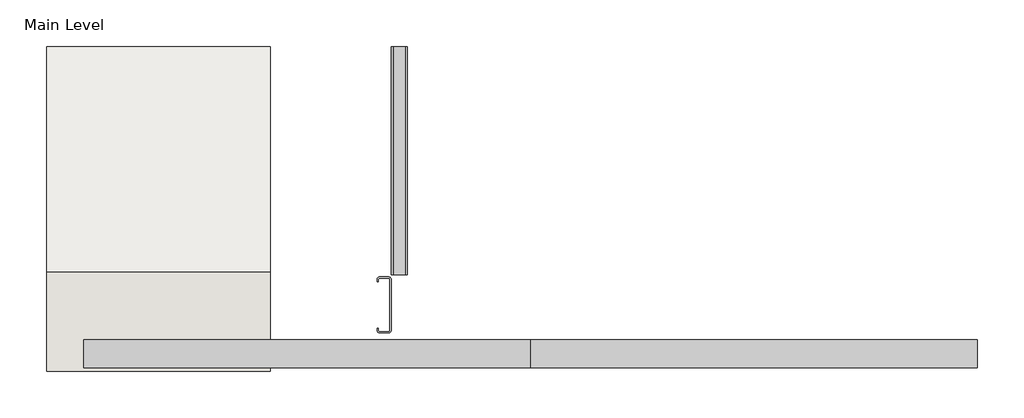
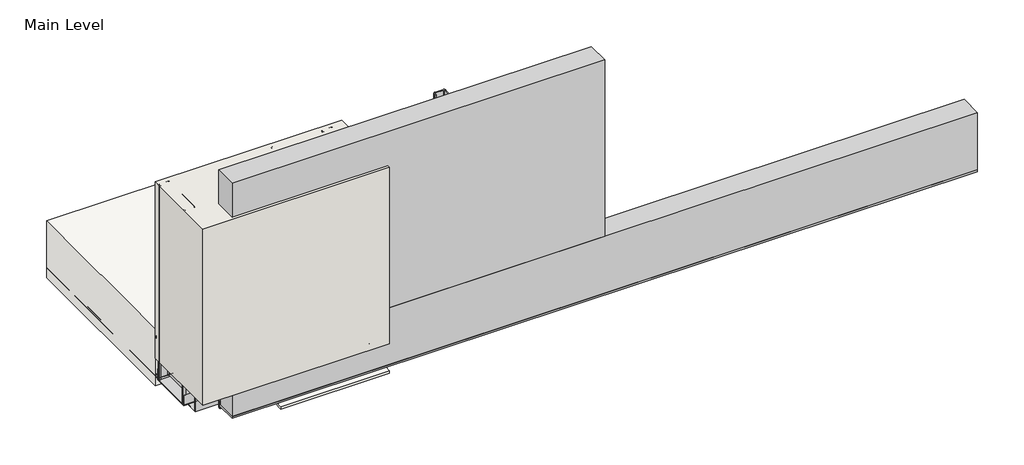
# One storey, incomplete: 10 proxies, 2 coverings, 1 wall.
"""IFC4 building model written with IfcOpenShell, lengths in millimetres."""

from ifc_helpers import new_model, si_unit, frame, origin, origin_with_axes, place, context, project, spatial, polyline, outline, extrude, transform, mapped, element, save
from components import generic_models_9a115d84, generic_models_2e656d56, generic_models_47e8b319, proxy_81afb05a, proxy_e5e434bb, proxy_63d6b373, soffit_box_soffit_box_c2691520, wood_blocking_c9818c35, wood_blocking_63bdfc83

model = new_model("IFC4")

# Units and contexts
model_context = context("Model", 3, world=origin())
ifc_project = project(units=[si_unit("LENGTHUNIT", "METRE", prefix="MILLI")], contexts=[model_context])

# Site, building, storey
site = spatial("IfcSite", under=ifc_project)
building = spatial("IfcBuilding", under=site)
storey = spatial("IfcBuildingStorey", under=building, Name="Main Level", Elevation=0.0)

# Proxies
placement = place(None, origin())
generic_models_shape = generic_models_9a115d84(model_context)
element("IfcBuildingElementProxy", 1, Name="CRAi Generic Model Metal Stud Array : CRAi Generic Model Metal Stud Array", ObjectType="CRAi Generic Model Metal Stud Array : CRAi Generic Model Metal Stud Array", at=placement, inside=storey, context=model_context, shape_type="MappedRepresentation", body=[
    mapped(generic_models_shape, transform((26692.3726773, 719.7066297, -60.325), x_axis=(-1.0, 0.0, 0.0), y_axis=(0.0, -1.0, 0.0), z_axis=(0.0, 0.0, 1.0))),
])
element("IfcBuildingElementProxy", 2, Name="CRAi Generic Model Metal Stud Array : CRAi Generic Model Metal Stud Array", ObjectType="CRAi Generic Model Metal Stud Array : CRAi Generic Model Metal Stud Array", at=placement, inside=storey, context=model_context, shape_type="MappedRepresentation", body=[
    mapped(generic_models_shape, transform((27225.7726773, 719.7066297, -60.325), x_axis=(-1.0, 0.0, 0.0), y_axis=(0.0, -1.0, 0.0), z_axis=(0.0, 0.0, 1.0))),
])
generic_models_2_shape = generic_models_2e656d56(model_context)
generic_models_3_shape = generic_models_47e8b319(model_context)
element("IfcBuildingElementProxy", 3, Name="Durabond Generic Soffit Drainage Vent : Durabond Generic Soffit Drainage Vent", ObjectType="Durabond Generic Soffit Drainage Vent : Durabond Generic Soffit Drainage Vent", at=placement, inside=storey, context=model_context, shape_type="MappedRepresentation", body=[
    mapped(generic_models_2_shape, transform((27199.3497774, 619.6941297, -93.6625), x_axis=(1.0, 0.0, 0.0), y_axis=(0.0, 1.0, 0.0), z_axis=(0.0, 0.0, 1.0))),
    mapped(generic_models_3_shape, transform((27199.3497774, 619.6941297, -93.6625), x_axis=(1.0, 0.0, 0.0), y_axis=(0.0, 1.0, 0.0), z_axis=(0.0, 0.0, 1.0))),
])
proxy_shape = proxy_81afb05a(model_context)
element("IfcBuildingElementProxy", 4, Name="Durabond Generic Model Equalite Insulation Board : 3\"", ObjectType="Durabond Generic Model Equalite Insulation Board : 3\"", at=placement, inside=storey, context=model_context, shape_type="MappedRepresentation", body=[
    mapped(proxy_shape, transform((27199.5789273, 624.4566297, 422.275), x_axis=(1.0, 0.0, 0.0), y_axis=(0.0, 0.0, 1.0), z_axis=(0.0, -1.0, 0.0))),
])
proxy_2_shape = proxy_e5e434bb(model_context)
element("IfcBuildingElementProxy", 5, Name="Durabond Generic Model Equalite Vent Board : 3\"", ObjectType="Durabond Generic Model Equalite Vent Board : 3\"", at=placement, inside=storey, context=model_context, shape_type="MappedRepresentation", body=[
    mapped(proxy_2_shape, transform((27809.1789273, 624.4566297, 15.875), x_axis=(1.0, 0.0, 0.0), y_axis=(0.0, 0.0, 1.0), z_axis=(0.0, -1.0, 0.0))),
])
proxy_3_shape = proxy_63d6b373(model_context)
element("IfcBuildingElementProxy", 6, Name="Durabond Generic Model Corner 90 Membrane : 4\" Barrier Seam Tape", ObjectType="Durabond Generic Model Corner 90 Membrane : 4\" Barrier Seam Tape", at=placement, inside=storey, context=model_context, shape_type="MappedRepresentation", body=[
    mapped(proxy_3_shape, transform((26514.5726773, 627.6316297, -82.55), x_axis=(0.0, 0.0, -1.0), y_axis=(0.0, 1.0, 0.0), z_axis=(1.0, 0.0, 0.0))),
])
soffit_box_soffit_box_shape = soffit_box_soffit_box_c2691520(model_context)
element("IfcBuildingElementProxy", 7, Name="Soffit Box : Soffit Box", ObjectType="Soffit Box : Soffit Box", at=placement, inside=storey, context=model_context, shape_type="MappedRepresentation", body=[
    mapped(soffit_box_soffit_box_shape, transform((0.0, -6.35, 0.0), x_axis=(1.0, 0.0, 0.0), y_axis=(0.0, 1.0, 0.0), z_axis=(0.0, 0.0, 1.0))),
])
element("IfcBuildingElementProxy", 8, Name="Soffit Box1 : Soffit Box", ObjectType="Soffit Box1 : Soffit Box", at=placement, inside=storey, context=model_context, shape_type="MappedRepresentation", body=[
    mapped(soffit_box_soffit_box_shape, transform((533.4, -6.35, 0.0), x_axis=(1.0, 0.0, 0.0), y_axis=(0.0, 1.0, 0.0), z_axis=(0.0, 0.0, 1.0))),
])
wood_blocking_shape = wood_blocking_c9818c35(model_context)
element("IfcBuildingElementProxy", 9, Name="CRAi Generic Model Line Based Metal Framing Track : Wood Blocking", ObjectType="CRAi Generic Model Line Based Metal Framing Track : Wood Blocking", at=placement, inside=storey, context=model_context, shape_type="MappedRepresentation", body=[
    mapped(wood_blocking_shape, transform((26489.1726773, 643.5066297, -66.675), x_axis=(1.0, 0.0, 0.0), y_axis=(0.0, 1.0, 0.0), z_axis=(0.0, 0.0, 1.0))),
])
wood_blocking_2_shape = wood_blocking_63bdfc83(model_context)
element("IfcBuildingElementProxy", 10, Name="CRAi Generic Model Line Based Metal Framing Track : Wood Blocking", ObjectType="CRAi Generic Model Line Based Metal Framing Track : Wood Blocking", at=placement, inside=storey, context=model_context, shape_type="MappedRepresentation", body=[
    mapped(wood_blocking_2_shape, transform((26491.8622441, 795.9066297, 85.725), x_axis=(1.0, 0.0, 0.0), y_axis=(0.0, 0.0, -1.0), z_axis=(0.0, 1.0, 0.0))),
])

# Coverings
element("IfcCovering", 11, ObjectType="Durabond Detail Ceiling 3 Metal Stud", at=placement, inside=storey, context=model_context, shape_type="SweptSolid", body=[
    extrude(outline(polyline([(27098.7726773, 808.6066297), (26489.1726773, 808.6066297), (26489.1726773, 1424.5566297), (27098.7726773, 1424.5566297), (27098.7726773, 808.6066297)])), frame((0.0, 0.0, -95.25), z_axis=(0.0, 0.0, 1.0), x_axis=(1.0, 0.0, 0.0)), (0.0, 0.0, 1.0), 196.85),
])
element("IfcCovering", 12, ObjectType="Durabond Stucco Lamina", at=placement, inside=storey, context=model_context, shape_type="SweptSolid", body=[
    extrude(outline(polyline([(538.7316297, -92.9108052), (621.2816297, -85.688616), (621.2816297, -95.25), (538.7316297, -102.4721892), (538.7316297, -92.9108052)])), frame((26743.1726773, 0.0, 0.0), z_axis=(1.0, 0.0, 0.0), x_axis=(0.0, 1.0, 0.0)), (0.0, 0.0, 1.0), 355.6),
])

# Wall
element("IfcWall", 13, ObjectType="189mm (7.5”) EIFS Field Applied on Mtl. Stud Layer - 50mm Grooved Insulation Board Metal Stud Wall(AirStop) 2", at=placement, inside=storey, context=model_context, shape_type="SweptSolid", body=[
    extrude(outline(polyline([(27098.7726773, 538.7316297), (26489.1726773, 538.7316297), (26489.1726773, 808.6066297), (27098.7726773, 808.6066297), (27098.7726773, 538.7316297)])), origin_with_axes(), (0.0, 0.0, 1.0), 609.6),
])

save(model, "model.ifc")
